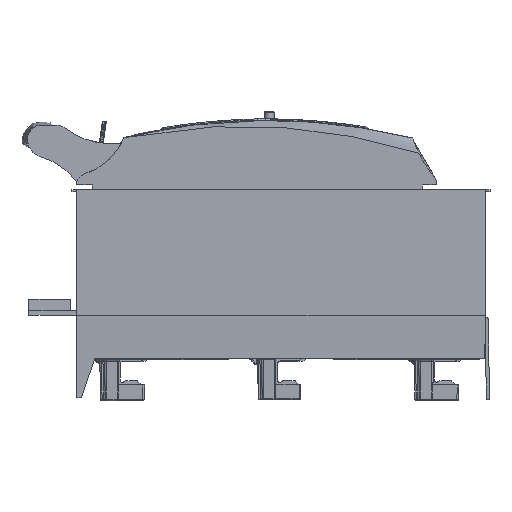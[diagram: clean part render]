
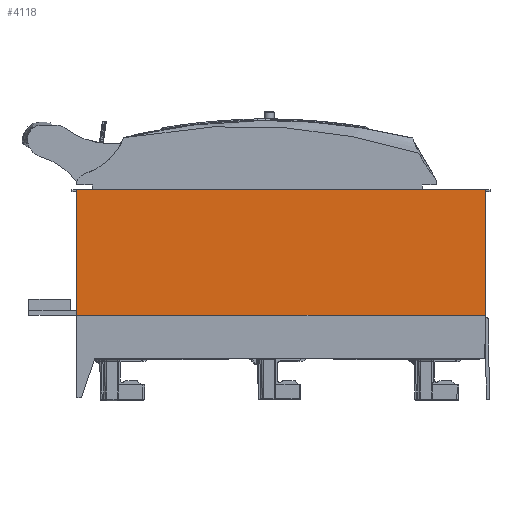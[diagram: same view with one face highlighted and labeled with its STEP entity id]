
A CAD part, front view. The second image highlights one B-rep face of the part: STEP entity #4118.
In plain terms, the highlighted planar face has unit normal (0, -1, 0).
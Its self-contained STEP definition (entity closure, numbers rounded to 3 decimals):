
#4118=ADVANCED_FACE('',(#7578),#6288,.F.);
#6288=PLANE('',#39412);
#7578=FACE_OUTER_BOUND('',#9692,.T.);
#9692=EDGE_LOOP('',(#12601,#12602,#12603,#12604));
#12601=ORIENTED_EDGE('',*,*,#27284,.T.);
#12602=ORIENTED_EDGE('',*,*,#27348,.F.);
#12603=ORIENTED_EDGE('',*,*,#27901,.F.);
#12604=ORIENTED_EDGE('',*,*,#27315,.T.);
#23560=VERTEX_POINT('',#53527);
#23561=VERTEX_POINT('',#53529);
#23585=VERTEX_POINT('',#53590);
#23615=VERTEX_POINT('',#53653);
#27284=EDGE_CURVE('',#23561,#23560,#33089,.T.);
#27315=EDGE_CURVE('',#23585,#23561,#33120,.T.);
#27348=EDGE_CURVE('',#23615,#23560,#33147,.T.);
#27901=EDGE_CURVE('',#23585,#23615,#33202,.T.);
#33089=LINE('',#53528,#36005);
#33120=LINE('',#53589,#36036);
#33147=LINE('',#53654,#36063);
#33202=LINE('',#55591,#36118);
#36005=VECTOR('',#42851,1.);
#36036=VECTOR('',#42894,1.);
#36063=VECTOR('',#42935,1.);
#36118=VECTOR('',#43764,1.);
#39412=AXIS2_PLACEMENT_3D('',#55608,#43778,#43779);
#42851=DIRECTION('',(1.,0.,0.));
#42894=DIRECTION('',(0.,0.,-1.));
#42935=DIRECTION('',(0.,0.,-1.));
#43764=DIRECTION('',(1.,0.,0.));
#43778=DIRECTION('',(0.,1.,0.));
#43779=DIRECTION('',(0.,0.,1.));
#53527=CARTESIAN_POINT('',(129.812,-103.938,0.193));
#53528=CARTESIAN_POINT('',(129.812,-103.938,0.193));
#53529=CARTESIAN_POINT('',(-130.188,-103.938,0.193));
#53589=CARTESIAN_POINT('',(-130.188,-103.938,80.193));
#53590=CARTESIAN_POINT('',(-130.188,-103.938,80.193));
#53653=CARTESIAN_POINT('',(129.812,-103.938,80.193));
#53654=CARTESIAN_POINT('',(129.812,-103.938,80.193));
#55591=CARTESIAN_POINT('',(129.812,-103.938,80.193));
#55608=CARTESIAN_POINT('',(129.812,-103.938,80.193));
